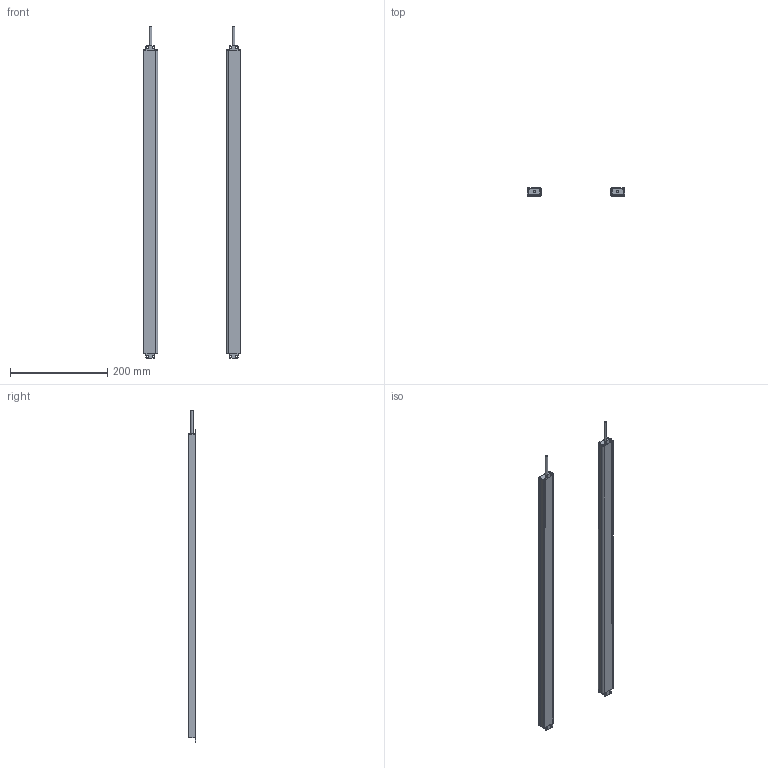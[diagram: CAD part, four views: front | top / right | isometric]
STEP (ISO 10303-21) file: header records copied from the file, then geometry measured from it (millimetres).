
FILE_DESCRIPTION(/* description */ (''),/* implementation_level */ '2;1');
FILE_NAME(/* name */ '6210（16X30w).stp',/* time_stamp */ '2020-07-18T15:23:00+08:00',/* author */ (''),/* organization */ (''),/* preprocessor_version */ 'ST-DEVELOPER v16',/* originating_system */ 'SIEMENS PLM Software NX 10.0',/* authorisation */ '');
FILE_SCHEMA (('AP203_CONFIGURATION_CONTROLLED_3D_DESIGN_OF_MECHANICAL_PARTS_AND_ASSEMBLIES_MIM_LF { 1 0 10303 403 2 1 2}'));
Length unit declared in the file: millimetre
Products named in the file (1): Admi58A03253m8pt
Bounding box: 200 x 16 x 681.5 mm (x, y, z)
Volume: 179683.9 mm3; surface area: 265427.5 mm2
Topology: 10 solids, 10 shells, 296 faces, 830 edges, 554 vertices
Faces by surface type: plane 160, cylinder 136
Full cylindrical faces by diameter (mm): 5 x2
Entity records: 9760 total; most frequent: DIRECTION 1692, CARTESIAN_POINT 1675, ORIENTED_EDGE 1652, EDGE_CURVE 826, AXIS2_PLACEMENT_3D 569, LINE 554, VECTOR 554, VERTEX_POINT 552
